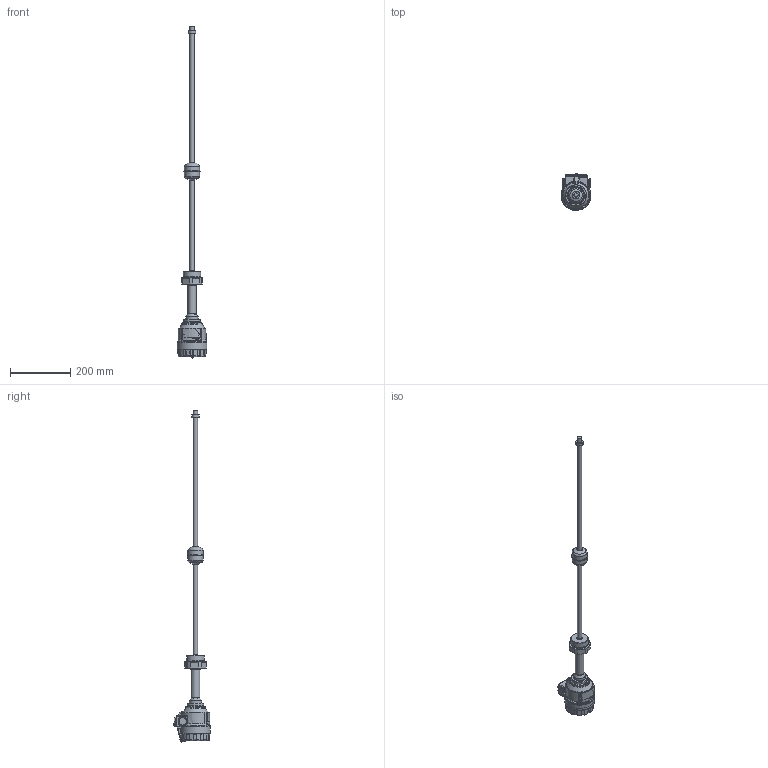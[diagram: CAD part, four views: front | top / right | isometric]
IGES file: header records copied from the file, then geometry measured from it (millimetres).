
Global section: file name: M_RN_Aszer_2col; native system: Autodesk Inventor 2015; preprocessor: unknown; author: aantal; date: 20150306.112418; units: millimetre
Bounding box: 98.92 x 122.03 x 1100.87 mm (x, y, z)
Volume: 1346590.2 mm3; surface area: 186348.2 mm2
Topology: 18 solids, 20 shells, 1118 faces, 2741 edges, 1661 vertices
Faces by surface type: bspline 1118
